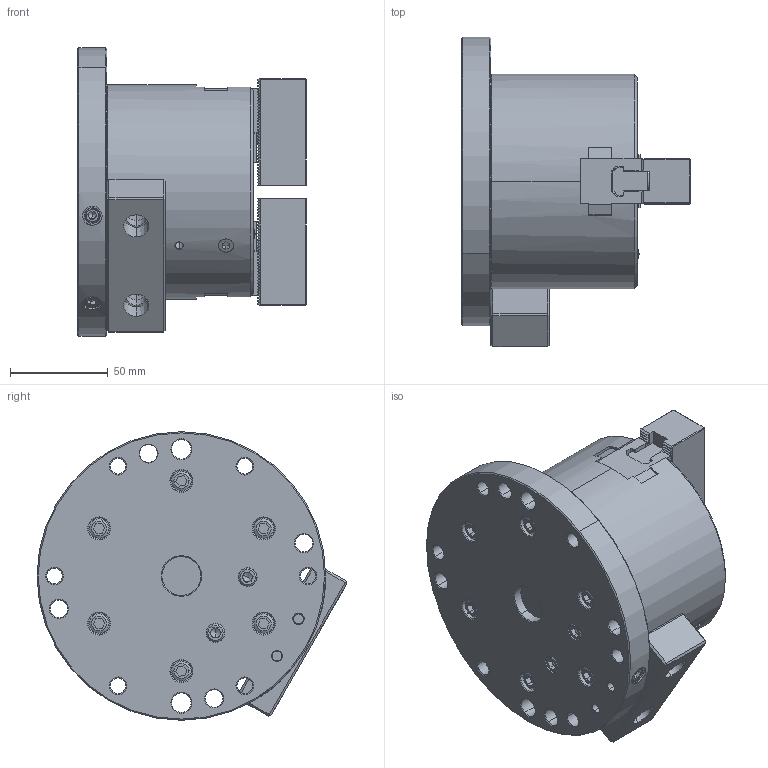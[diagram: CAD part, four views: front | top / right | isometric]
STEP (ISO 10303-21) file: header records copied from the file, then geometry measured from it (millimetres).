
FILE_DESCRIPTION (( 'STEP AP214' ), '1' );
FILE_NAME ('AT04_61P395649-4_OC.STEP', '2020-06-23T01:11:06', ( '' ), ( '' ), 'SwSTEP 2.0', 'SolidWorks 2017', '' );
FILE_SCHEMA (( 'AUTOMOTIVE_DESIGN' ));
Length unit declared in the file: millimetre
Products named in the file (5): Part2^61P390015 クミタテ; P31487-4_ソフトジョー; 61P400832-5_T僫僢僩; AT04_61P395649-4_OC; Bアナツキ M8×22
Assembly tree (9 placements, depth 2):
  AT04_61P395649-4_OC
    P31487-4_ソフトジョー  x2
    61P400832-5_T僫僢僩  x2
    Bアナツキ M8×22  x4
    Part2^61P390015 クミタテ
Bounding box: 117.2 x 158.88 x 148 mm (x, y, z)
Volume: 1050195.4 mm3; surface area: 120132 mm2
Topology: 9 solids, 15 shells, 2175 faces, 5889 edges, 3824 vertices
Faces by surface type: plane 1560, cylinder 324, cone 218, bspline 47, torus 22, sphere 4
Entity records: 59758 total; most frequent: CARTESIAN_POINT 13230, ORIENTED_EDGE 9910, DIRECTION 9162, EDGE_CURVE 4955, VECTOR 3848, LINE 3848, VERTEX_POINT 3217, AXIS2_PLACEMENT_3D 2657
